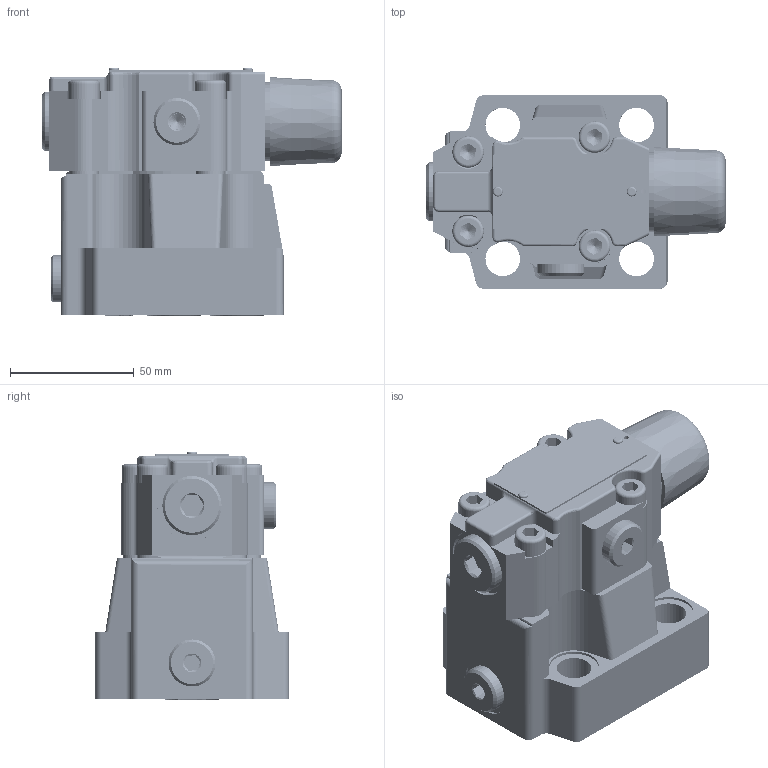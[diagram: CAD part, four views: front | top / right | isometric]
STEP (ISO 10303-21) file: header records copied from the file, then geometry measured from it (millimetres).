
FILE_DESCRIPTION(/* description */ (''),/* implementation_level */ '2;1');
FILE_NAME(/* name */ 'DB10-2-5XJ溢流阀.prt.stp',/* time_stamp */ '2022-03-30T20:08:46+08:00',/* author */ (''),/* organization */ (''),/* preprocessor_version */ 'ST-DEVELOPER v16.7',/* originating_system */ 'SIEMENS PLM Software NX 12.0',/* authorisation */ '');
FILE_SCHEMA (('AUTOMOTIVE_DESIGN { 1 0 10303 214 3 1 1 1 }'));
Products named in the file (1): DB10-2-5XJ溢流阀
Bounding box: 120.72 x 78 x 100.42 mm (x, y, z)
Volume: 452743.6 mm3; surface area: 99519.3 mm2
Topology: 25 solids, 28 shells, 637 faces, 1564 edges, 1015 vertices
Faces by surface type: plane 274, cylinder 230, bspline 52, cone 49, torus 30, sphere 2
Full cylindrical faces by diameter (mm): 1 x1, 1.8 x4, 2 x2, 2.5 x2, 3 x1, 4 x2, 4.2 x10, 5 x1, 6 x1, 7 x12, 7.5 x2, 8 x1, 8.4 x4, 9.5 x1, 11.2 x4, 11.5 x7, 12.2 x3, 12.73 x4, 14 x4, 15.5 x2, 16.4 x1, 16.6 x4, 18 x3, 19 x5, 20 x4, 21 x2, 21.8 x2, 23 x1, 23.9 x1, 28 x1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
Entity records: 94953 total; most frequent: CARTESIAN_POINT 81255, DIRECTION 2576, ORIENTED_EDGE 2516, EDGE_CURVE 1258, AXIS2_PLACEMENT_3D 1028, VERTEX_POINT 888, EDGE_LOOP 800, ADVANCED_FACE 607
